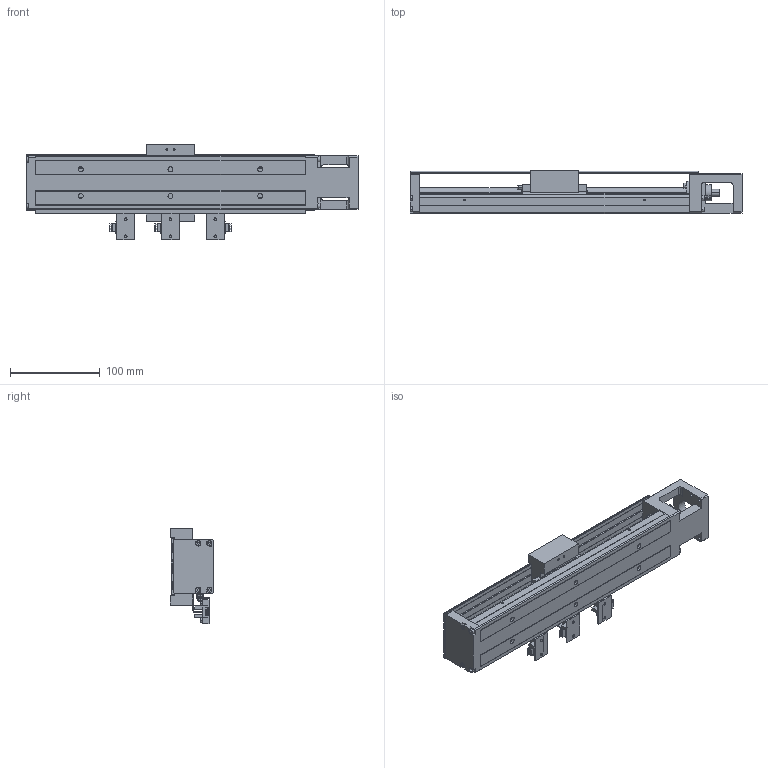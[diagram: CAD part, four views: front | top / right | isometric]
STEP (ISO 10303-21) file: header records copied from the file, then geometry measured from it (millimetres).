
FILE_DESCRIPTION (( 'STEP AP203' ), '1' );
FILE_NAME ('HKK60D10C-300A1-F0CS1.stp', '2021-11-29T03:37:37', ( '' ), ( '' ), 'SwSTEP 2.0', 'SolidWorks 2018', '' );
FILE_SCHEMA (( 'CONFIG_CONTROL_DESIGN' ));
Length unit declared in the file: millimetre
Products named in the file (1): HKK60D10C-300A1-F0CS1
Bounding box: 370 x 48 x 106.85 mm (x, y, z)
Volume: 531294.6 mm3; surface area: 195403.1 mm2
Topology: 6 solids, 20 shells, 1410 faces, 3553 edges, 2259 vertices
Faces by surface type: plane 876, cylinder 390, cone 110, torus 32, bspline 2
Entity records: 42109 total; most frequent: CARTESIAN_POINT 8326, ORIENTED_EDGE 7006, DIRECTION 6897, EDGE_CURVE 3503, VECTOR 2455, LINE 2455, VERTEX_POINT 2259, AXIS2_PLACEMENT_3D 2221
